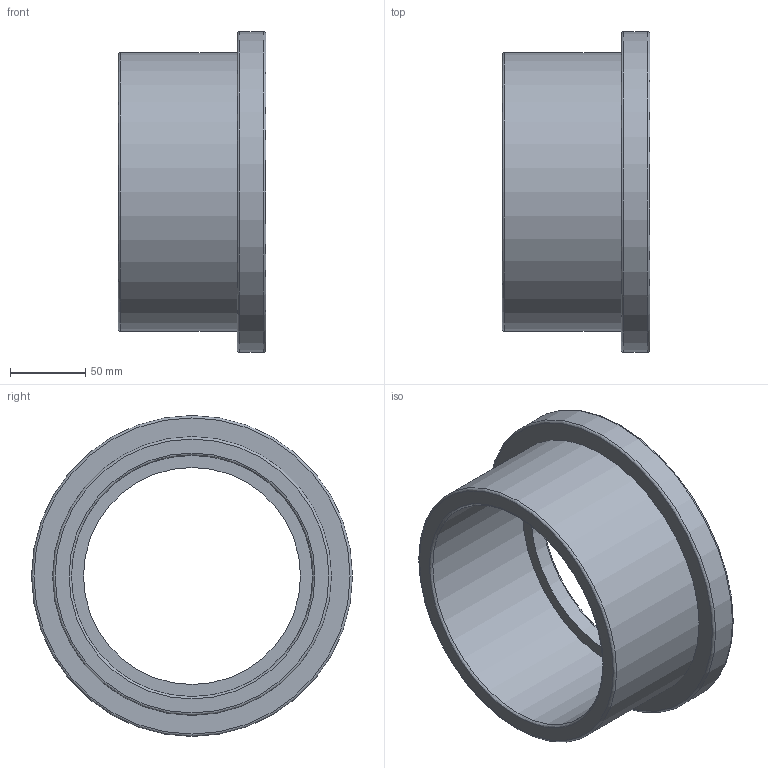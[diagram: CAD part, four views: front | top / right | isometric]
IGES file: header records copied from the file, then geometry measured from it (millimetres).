
Global section: file name: 055000160.ipt; native system: Autodesk Inventor 2015; preprocessor: unknown; author: KIM; date: 20171207.165721; units: millimetre
Bounding box: 98 x 213 x 213 mm (x, y, z)
Volume: 841336.1 mm3; surface area: 148856.1 mm2
Topology: 1 solids, 1 shells, 21 faces, 60 edges, 45 vertices
Faces by surface type: revolution 12, plane 6, cylinder 3
Full cylindrical faces by diameter (mm): 168.15 x1, 185 x1, 213 x1
